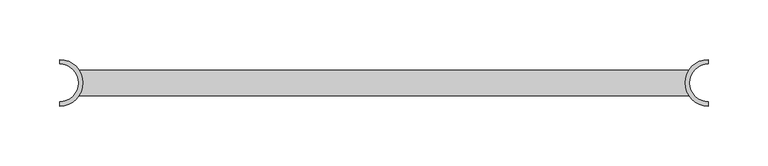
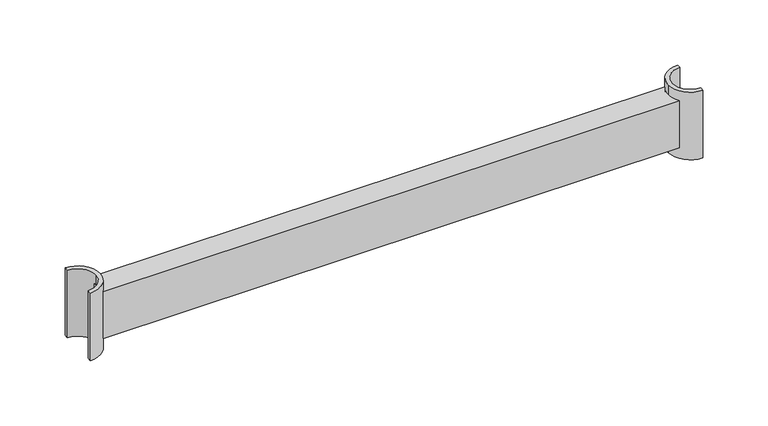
"""IFC4 building model written with IfcOpenShell, lengths in millimetres: furniture geometry."""

from ifc_helpers import new_model, si_unit, point, frame, frame_2d, origin, place, context, project, spatial, polyline, circle_curve, trimmed, segment, composite_curve, outline, extrude, source, transform, mapped, element, save


def furniture_b27a1659(model_context):
    return source(origin(), model_context, "Body", "SweptSolid", [
        extrude(outline(polyline([(256.2225383, 10.6660156), (256.2225383, -10.6660156), (-256.0878417, -10.6660156), (-256.0878417, 10.6660156), (256.2225383, 10.6660156)])), frame((0.0, 0.0, 1306.5188846), z_axis=(0.0, 0.0, 1.0), x_axis=(1.0, 0.0, 0.0)), (0.0, 0.0, 1.0), 44.45),
        extrude(outline(composite_curve([segment(trimmed(circle_curve(frame_2d((-271.9628417, 0.0)), 15.875), [point((-256.0878417, 0.0))], [point((-271.9628417, 15.875))], True, "CARTESIAN"), True, "CONTINUOUS"), segment(polyline([(-271.9628417, 15.875), (-271.9628417, 19.54022)]), True, "CONTINUOUS"), segment(trimmed(circle_curve(frame_2d((-271.9628417, 0.0)), 19.54022), [point((-271.9628417, 19.54022))], [point((-252.4226217, 0.0))], False, "CARTESIAN"), True, "CONTINUOUS"), segment(trimmed(circle_curve(frame_2d((-271.9628417, 0.0)), 19.54022), [point((-252.4226217, 0.0))], [point((-271.9628417, -19.54022))], False, "CARTESIAN"), True, "CONTINUOUS"), segment(polyline([(-271.9628417, -19.54022), (-271.9628417, -15.875)]), True, "CONTINUOUS"), segment(trimmed(circle_curve(frame_2d((-271.9628417, 0.0)), 15.875), [point((-271.9628417, -15.875))], [point((-256.0878417, 0.0))], True, "CARTESIAN"), True, "CONTINUOUS")], self_intersect=False)), frame((0.0, 0.0, 1296.9938846), z_axis=(0.0, 0.0, 1.0), x_axis=(1.0, 0.0, 0.0)), (0.0, 0.0, 1.0), 63.5),
        extrude(outline(composite_curve([segment(trimmed(circle_curve(frame_2d((272.0975383, 0.0)), 19.54022), [point((252.5573183, 0.0))], [point((272.0975383, 19.54022))], False, "CARTESIAN"), True, "CONTINUOUS"), segment(polyline([(272.0975383, 19.54022), (272.0975383, 15.875)]), True, "CONTINUOUS"), segment(trimmed(circle_curve(frame_2d((272.0975383, 0.0)), 15.875), [point((272.0975383, 15.875))], [point((256.2225383, 0.0))], True, "CARTESIAN"), True, "CONTINUOUS"), segment(trimmed(circle_curve(frame_2d((272.0975383, 0.0)), 15.875), [point((256.2225383, 0.0))], [point((272.0975383, -15.875))], True, "CARTESIAN"), True, "CONTINUOUS"), segment(polyline([(272.0975383, -15.875), (272.0975383, -19.54022)]), True, "CONTINUOUS"), segment(trimmed(circle_curve(frame_2d((272.0975383, 0.0)), 19.54022), [point((272.0975383, -19.54022))], [point((252.5573183, 0.0))], False, "CARTESIAN"), True, "CONTINUOUS")], self_intersect=False)), frame((0.0, 0.0, 1296.9938846), z_axis=(0.0, 0.0, 1.0), x_axis=(1.0, 0.0, 0.0)), (0.0, 0.0, 1.0), 63.5),
    ])


if __name__ == "__main__":
    model = new_model("IFC4")
    model_context = context("Model", 3, world=origin())
    ifc_project = project(units=[si_unit("LENGTHUNIT", "METRE", prefix="MILLI")], contexts=[model_context])
    site = spatial("IfcSite", under=ifc_project)
    building = spatial("IfcBuilding", under=site)
    placement = place(None, origin())
    furniture_shape = furniture_b27a1659(model_context)
    element("IfcFurniture", 1, ObjectType="HermanMiller_Carts_CT790_Above-CartRailSingle-WideCart : Add-On Rail For Carts 28\"W", at=placement, inside=building, context=model_context, shape_type="MappedRepresentation", body=[
        mapped(furniture_shape, transform((0.0, 0.0, 0.0), x_axis=(1.0, 0.0, 0.0), y_axis=(0.0, 1.0, 0.0), z_axis=(0.0, 0.0, 1.0))),
    ])
    save(model, "model.ifc")
